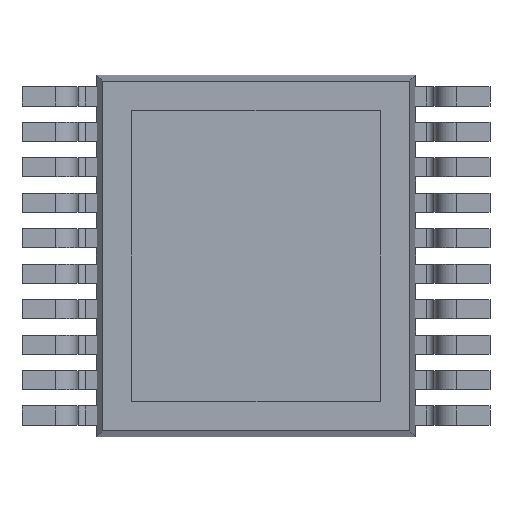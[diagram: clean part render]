
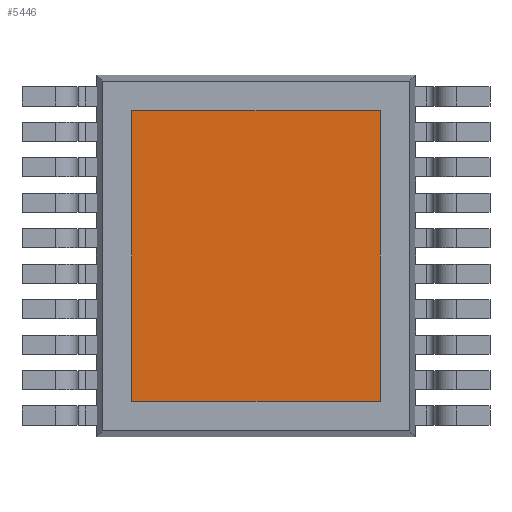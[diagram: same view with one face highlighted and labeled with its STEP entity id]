
A CAD part, front view. The second image highlights one B-rep face of the part: STEP entity #5446.
In plain terms, the highlighted planar face has unit normal (0, -1, 0).
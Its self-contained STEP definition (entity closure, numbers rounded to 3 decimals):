
#2061 = EDGE_CURVE ( 'NONE', #11919, #11890, #10261, .T. ) ;
#2065 = EDGE_CURVE ( 'NONE', #11868, #11893, #10253, .T. ) ;
#2066 = EDGE_CURVE ( 'NONE', #11893, #11919, #10252, .T. ) ;
#2068 = EDGE_CURVE ( 'NONE', #11890, #11868, #10255, .T. ) ;
#2254 = AXIS2_PLACEMENT_3D ( 'NONE', #2854, #2855, #2856 ) ;
#2794 = CARTESIAN_POINT ( 'NONE',  ( -1.75, 0., -2.05 ) ) ;
#2795 = DIRECTION ( 'NONE',  ( 1., 0., 0. ) ) ;
#2797 = DIRECTION ( 'NONE',  ( -1., 0., 0. ) ) ;
#2799 = CARTESIAN_POINT ( 'NONE',  ( -1.75, 0., 2.05 ) ) ;
#2801 = CARTESIAN_POINT ( 'NONE',  ( 1.75, 0., 2.05 ) ) ;
#2805 = CARTESIAN_POINT ( 'NONE',  ( -1.75, 0., 2.05 ) ) ;
#2806 = DIRECTION ( 'NONE',  ( 0., 0., -1. ) ) ;
#2810 = DIRECTION ( 'NONE',  ( 0., 0., 1. ) ) ;
#2835 = PLANE ( 'NONE',  #2254 ) ;
#2854 = CARTESIAN_POINT ( 'NONE',  ( 0., 0., 0. ) ) ;
#2855 = DIRECTION ( 'NONE',  ( 0., 1., 0. ) ) ;
#2856 = DIRECTION ( 'NONE',  ( 0., 0., 1. ) ) ;
#4803 = CARTESIAN_POINT ( 'NONE',  ( 1.75, 0., 2.05 ) ) ;
#4825 = CARTESIAN_POINT ( 'NONE',  ( 1.75, 0., -2.05 ) ) ;
#4828 = CARTESIAN_POINT ( 'NONE',  ( -1.75, 0., 2.05 ) ) ;
#4854 = CARTESIAN_POINT ( 'NONE',  ( -1.75, 0., -2.05 ) ) ;
#5446 = ADVANCED_FACE ( 'NONE', ( #10232 ), #2835, .F. ) ;
#10232 = FACE_OUTER_BOUND ( 'NONE', #11968, .T. ) ;
#10245 = VECTOR ( 'NONE', #2810, 1000. ) ;
#10249 = VECTOR ( 'NONE', #2806, 1000. ) ;
#10251 = VECTOR ( 'NONE', #2797, 1000. ) ;
#10252 = LINE ( 'NONE', #2805, #10249 ) ;
#10253 = LINE ( 'NONE', #2799, #10251 ) ;
#10255 = LINE ( 'NONE', #2801, #10245 ) ;
#10258 = VECTOR ( 'NONE', #2795, 1000. ) ;
#10261 = LINE ( 'NONE', #2794, #10258 ) ;
#11868 = VERTEX_POINT ( 'NONE', #4803 ) ;
#11890 = VERTEX_POINT ( 'NONE', #4825 ) ;
#11893 = VERTEX_POINT ( 'NONE', #4828 ) ;
#11919 = VERTEX_POINT ( 'NONE', #4854 ) ;
#11968 = EDGE_LOOP ( 'NONE', ( #12800, #12714, #12786, #12722 ) ) ;
#12714 = ORIENTED_EDGE ( 'NONE', *, *, #2065, .T. ) ;
#12722 = ORIENTED_EDGE ( 'NONE', *, *, #2061, .T. ) ;
#12786 = ORIENTED_EDGE ( 'NONE', *, *, #2066, .T. ) ;
#12800 = ORIENTED_EDGE ( 'NONE', *, *, #2068, .T. ) ;
